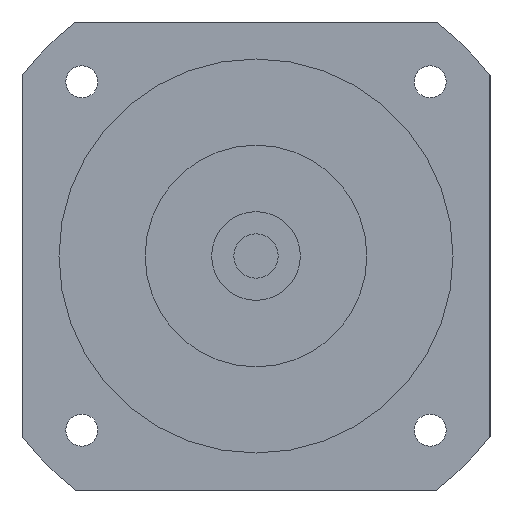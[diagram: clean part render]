
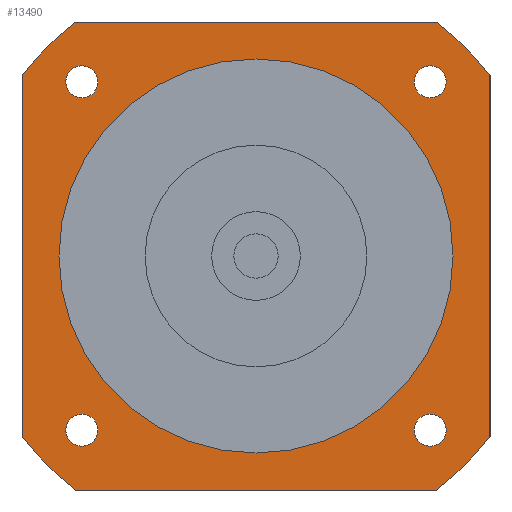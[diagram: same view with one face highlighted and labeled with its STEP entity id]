
A CAD part, left-side view. The second image highlights one B-rep face of the part: STEP entity #13490.
In plain terms, the highlighted planar face has unit normal (-1, 0, 0) as drawn and (0, 0, -1) by its records, which use the part's own axes.
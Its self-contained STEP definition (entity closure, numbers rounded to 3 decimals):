
#8680=CARTESIAN_POINT('',(47.5,36.657,-43.2));
#8690=VERTEX_POINT('',#8680);
#8740=CARTESIAN_POINT('',(47.5,47.5,-43.2));
#8750=DIRECTION('',(0.,-1.,0.));
#8760=VECTOR('',#8750,1000.);
#8770=LINE('',#8740,#8760);
#8780=CARTESIAN_POINT('',(47.5,-36.657,-43.2));
#8790=VERTEX_POINT('',#8780);
#8800=EDGE_CURVE('',#8690,#8790,#8770,.T.);
#9080=CARTESIAN_POINT('',(-36.657,47.5,-43.2));
#9090=VERTEX_POINT('',#9080);
#9270=CARTESIAN_POINT('',(-47.5,36.657,-43.2));
#9280=VERTEX_POINT('',#9270);
#9310=CARTESIAN_POINT('',(0.,0.,
-43.2));
#9320=DIRECTION('',(0.,0.,-1.));
#9330=DIRECTION('',(1.,0.,0.));
#9340=AXIS2_PLACEMENT_3D('',#9310,#9320,#9330);
#9350=CIRCLE('',#9340,60.);
#9360=EDGE_CURVE('',#9280,#9090,#9350,.T.);
#12010=CARTESIAN_POINT('',(-32.105,35.355,-43.2));
#12020=VERTEX_POINT('',#12010);
#12050=CARTESIAN_POINT('',(-35.355,35.355,-43.2));
#12060=DIRECTION('',(0.,0.,-1.));
#12070=DIRECTION('',(-1.,0.,0.));
#12080=AXIS2_PLACEMENT_3D('',#12050,#12060,#12070);
#12090=CIRCLE('',#12080,3.25);
#12100=CARTESIAN_POINT('',(-38.605,35.355,-43.2));
#12110=VERTEX_POINT('',#12100);
#12120=EDGE_CURVE('',#12110,#12020,#12090,.T.);
#12240=CARTESIAN_POINT('',(47.5,47.5,-43.2));
#12250=DIRECTION('',(0.,0.,-1.));
#12260=DIRECTION('',(1.,0.,0.));
#12270=AXIS2_PLACEMENT_3D('',#12240,#12250,#12260);
#12280=PLANE('',#12270);
#12290=ORIENTED_EDGE('',*,*,#12120,.F.);
#12300=EDGE_CURVE('',#12020,#12110,#12090,.T.);
#12310=ORIENTED_EDGE('',*,*,#12300,.F.);
#12320=EDGE_LOOP('',(#12310,#12290));
#12330=FACE_BOUND('',#12320,.T.);
#12340=CARTESIAN_POINT('',(35.355,35.355,-43.2));
#12350=DIRECTION('',(0.,0.,-1.));
#12360=DIRECTION('',(0.,1.,0.));
#12370=AXIS2_PLACEMENT_3D('',#12340,#12350,#12360);
#12380=CIRCLE('',#12370,3.25);
#12390=CARTESIAN_POINT('',(35.355,38.605,-43.2));
#12400=VERTEX_POINT('',#12390);
#12410=CARTESIAN_POINT('',(35.355,32.105,-43.2));
#12420=VERTEX_POINT('',#12410);
#12430=EDGE_CURVE('',#12400,#12420,#12380,.T.);
#12440=ORIENTED_EDGE('',*,*,#12430,.F.);
#12450=EDGE_CURVE('',#12420,#12400,#12380,.T.);
#12460=ORIENTED_EDGE('',*,*,#12450,.F.);
#12470=EDGE_LOOP('',(#12460,#12440));
#12480=FACE_BOUND('',#12470,.T.);
#12490=CARTESIAN_POINT('',(0.,0.,
-43.2));
#12500=DIRECTION('',(0.,0.,1.));
#12510=DIRECTION('',(0.,1.,0.));
#12520=AXIS2_PLACEMENT_3D('',#12490,#12500,#12510);
#12530=CIRCLE('',#12520,40.);
#12540=CARTESIAN_POINT('',(-40.,0.,-43.2));
#12550=VERTEX_POINT('',#12540);
#12560=CARTESIAN_POINT('',(40.,0.,-43.2));
#12570=VERTEX_POINT('',#12560);
#12580=EDGE_CURVE('',#12550,#12570,#12530,.T.);
#12590=ORIENTED_EDGE('',*,*,#12580,.T.);
#12600=CARTESIAN_POINT('',(0.,40.,-43.2));
#12610=VERTEX_POINT('',#12600);
#12620=EDGE_CURVE('',#12610,#12550,#12530,.T.);
#12630=ORIENTED_EDGE('',*,*,#12620,.T.);
#12640=EDGE_CURVE('',#12570,#12610,#12530,.T.);
#12650=ORIENTED_EDGE('',*,*,#12640,.T.);
#12660=EDGE_LOOP('',(#12650,#12630,#12590));
#12670=FACE_BOUND('',#12660,.T.);
#12680=CARTESIAN_POINT('',(35.355,-35.355,-43.2));
#12690=DIRECTION('',(0.,0.,-1.));
#12700=DIRECTION('',(1.,0.,0.));
#12710=AXIS2_PLACEMENT_3D('',#12680,#12690,#12700);
#12720=CIRCLE('',#12710,3.25);
#12730=CARTESIAN_POINT('',(38.605,-35.355,-43.2));
#12740=VERTEX_POINT('',#12730);
#12750=CARTESIAN_POINT('',(32.105,-35.355,-43.2));
#12760=VERTEX_POINT('',#12750);
#12770=EDGE_CURVE('',#12740,#12760,#12720,.T.);
#12780=ORIENTED_EDGE('',*,*,#12770,.F.);
#12790=EDGE_CURVE('',#12760,#12740,#12720,.T.);
#12800=ORIENTED_EDGE('',*,*,#12790,.F.);
#12810=EDGE_LOOP('',(#12800,#12780));
#12820=FACE_BOUND('',#12810,.T.);
#12830=CARTESIAN_POINT('',(-35.355,-35.355,-43.2));
#12840=DIRECTION('',(0.,0.,-1.));
#12850=DIRECTION('',(0.,-1.,0.));
#12860=AXIS2_PLACEMENT_3D('',#12830,#12840,#12850);
#12870=CIRCLE('',#12860,3.25);
#12880=CARTESIAN_POINT('',(-35.355,-38.605,-43.2));
#12890=VERTEX_POINT('',#12880);
#12900=CARTESIAN_POINT('',(-35.355,-32.105,-43.2));
#12910=VERTEX_POINT('',#12900);
#12920=EDGE_CURVE('',#12890,#12910,#12870,.T.);
#12930=ORIENTED_EDGE('',*,*,#12920,.F.);
#12940=EDGE_CURVE('',#12910,#12890,#12870,.T.);
#12950=ORIENTED_EDGE('',*,*,#12940,.F.);
#12960=EDGE_LOOP('',(#12950,#12930));
#12970=FACE_BOUND('',#12960,.T.);
#12980=CARTESIAN_POINT('',(-47.5,47.5,-43.2));
#12990=DIRECTION('',(1.,0.,0.));
#13000=VECTOR('',#12990,1000.);
#13010=LINE('',#12980,#13000);
#13020=CARTESIAN_POINT('',(36.657,47.5,-43.2));
#13030=VERTEX_POINT('',#13020);
#13040=EDGE_CURVE('',#9090,#13030,#13010,.T.);
#13050=ORIENTED_EDGE('',*,*,#13040,.T.);
#13060=ORIENTED_EDGE('',*,*,#9360,.T.);
#13070=CARTESIAN_POINT('',(-47.5,-47.5,-43.2));
#13080=DIRECTION('',(0.,1.,0.));
#13090=VECTOR('',#13080,1000.);
#13100=LINE('',#13070,#13090);
#13110=CARTESIAN_POINT('',(-47.5,-36.657,-43.2));
#13120=VERTEX_POINT('',#13110);
#13130=EDGE_CURVE('',#13120,#9280,#13100,.T.);
#13140=ORIENTED_EDGE('',*,*,#13130,.T.);
#13150=CARTESIAN_POINT('',(0.,0.,
-43.2));
#13160=DIRECTION('',(0.,0.,-1.));
#13170=DIRECTION('',(1.,0.,0.));
#13180=AXIS2_PLACEMENT_3D('',#13150,#13160,#13170);
#13190=CIRCLE('',#13180,60.);
#13200=CARTESIAN_POINT('',(-36.657,-47.5,-43.2));
#13210=VERTEX_POINT('',#13200);
#13220=EDGE_CURVE('',#13210,#13120,#13190,.T.);
#13230=ORIENTED_EDGE('',*,*,#13220,.T.);
#13240=CARTESIAN_POINT('',(47.5,-47.5,-43.2));
#13250=DIRECTION('',(-1.,0.,0.));
#13260=VECTOR('',#13250,1000.);
#13270=LINE('',#13240,#13260);
#13280=CARTESIAN_POINT('',(36.657,-47.5,-43.2));
#13290=VERTEX_POINT('',#13280);
#13300=EDGE_CURVE('',#13290,#13210,#13270,.T.);
#13310=ORIENTED_EDGE('',*,*,#13300,.T.);
#13320=CARTESIAN_POINT('',(0.,0.,
-43.2));
#13330=DIRECTION('',(0.,0.,-1.));
#13340=DIRECTION('',(1.,0.,0.));
#13350=AXIS2_PLACEMENT_3D('',#13320,#13330,#13340);
#13360=CIRCLE('',#13350,60.);
#13370=EDGE_CURVE('',#8790,#13290,#13360,.T.);
#13380=ORIENTED_EDGE('',*,*,#13370,.T.);
#13390=ORIENTED_EDGE('',*,*,#8800,.T.);
#13400=CARTESIAN_POINT('',(0.,0.,
-43.2));
#13410=DIRECTION('',(0.,0.,-1.));
#13420=DIRECTION('',(1.,0.,0.));
#13430=AXIS2_PLACEMENT_3D('',#13400,#13410,#13420);
#13440=CIRCLE('',#13430,60.);
#13450=EDGE_CURVE('',#13030,#8690,#13440,.T.);
#13460=ORIENTED_EDGE('',*,*,#13450,.T.);
#13470=EDGE_LOOP('',(#13460,#13390,#13380,#13310,#13230,#13140,#13060,
#13050));
#13480=FACE_OUTER_BOUND('',#13470,.T.);
#13490=ADVANCED_FACE('',(#12330,#12480,#12670,#12820,#12970,#13480),
#12280,.T.);
